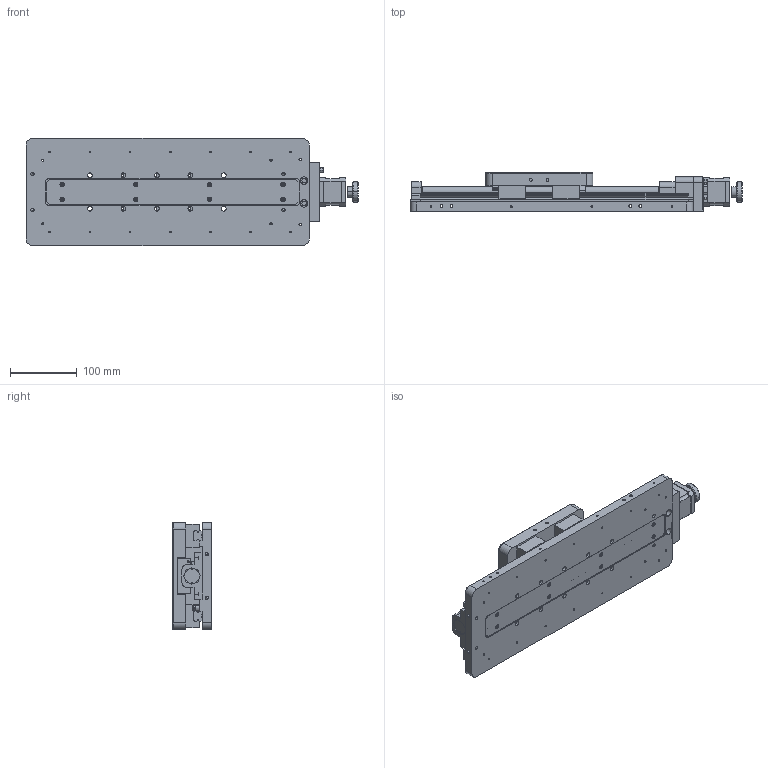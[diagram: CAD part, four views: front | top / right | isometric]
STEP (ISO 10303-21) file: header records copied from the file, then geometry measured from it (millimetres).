
FILE_DESCRIPTION (( 'STEP AP203' ), '1' );
FILE_NAME ('7STA03200Bµç¶¯Æ½ÒÆÌ¨.STEP', '2022-07-07T08:35:04', ( '' ), ( '' ), 'SwSTEP 2.0', 'SolidWorks 2018', '' );
FILE_SCHEMA (( 'CONFIG_CONTROL_DESIGN' ));
Products named in the file (1): 7STA03200B萇雄す痄怢
Bounding box: 496 x 58 x 160 mm (x, y, z)
Surface area: 357211.7 mm2 (no closed solid volume)
Topology: 0 solids, 119 shells, 1299 faces, 4508 edges, 3190 vertices
Faces by surface type: plane 625, cylinder 474, torus 90, cone 78, sphere 32
Entity records: 48896 total; most frequent: CARTESIAN_POINT 9969, DIRECTION 8538, ORIENTED_EDGE 6898, EDGE_CURVE 4396, VERTEX_POINT 3150, AXIS2_PLACEMENT_3D 3025, LINE 2488, VECTOR 2488
